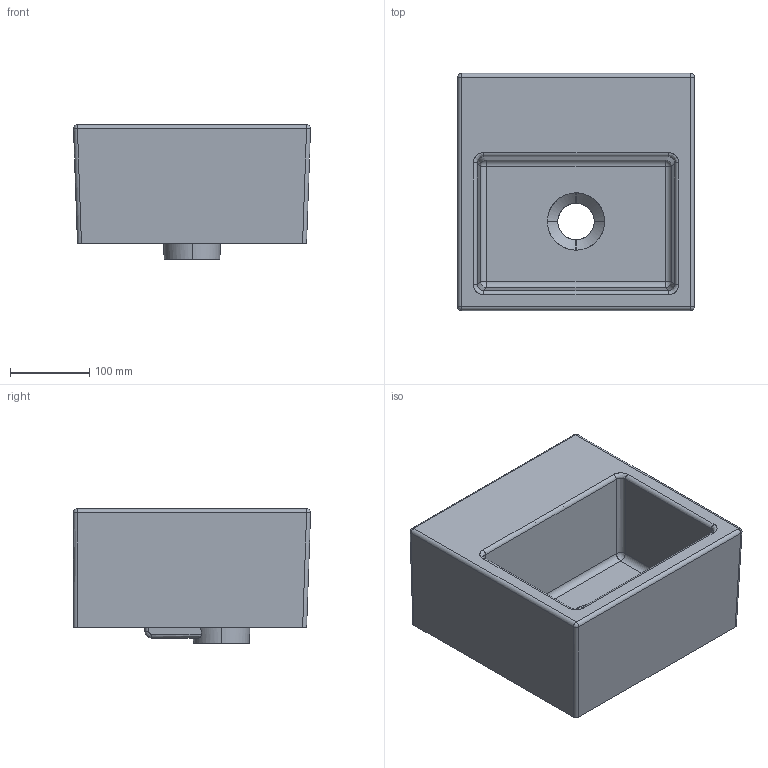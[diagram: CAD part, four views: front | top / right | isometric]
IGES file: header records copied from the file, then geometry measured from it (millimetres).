
Start section: START RECORD GO HERE.
Global section: file name: 6033_3D.igs; native system: DASSAULT SYSTEMES CATIA V5 R19 - www.3ds.com; preprocessor: CATIA Version 5 Release 19 SP 5 ; author: gioge; organization: LAPTOP-G94B6G74; date: 20201026.144331; units: millimetre
Bounding box: 299.64 x 299.82 x 170 mm (x, y, z)
Surface area: 378813.1 mm2 (no closed solid volume)
Topology: 0 solids, 0 shells, 67 faces, 291 edges, 291 vertices
Faces by surface type: revolution 39, bspline 19, plane 9
